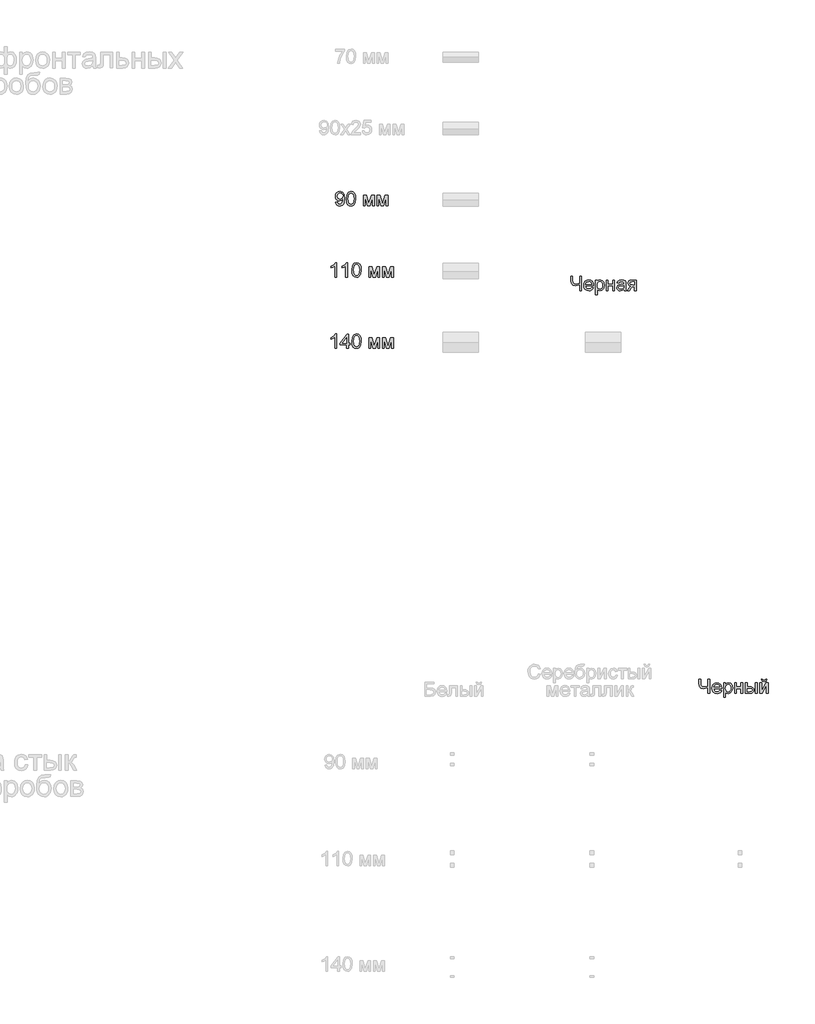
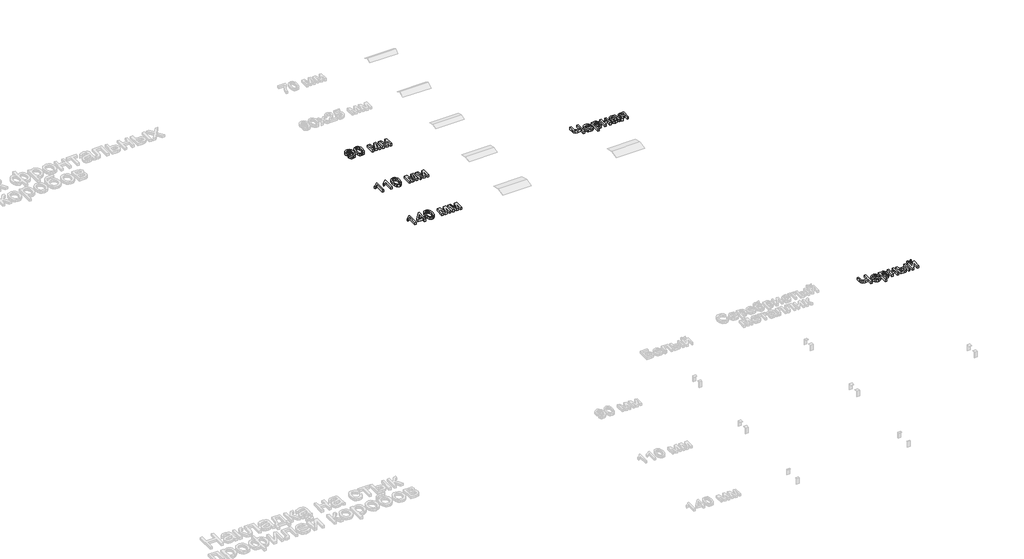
# One storey, part 32 of 48: 5 proxies.
"""IFC4 building model written with IfcOpenShell, lengths in millimetres."""

import ifcopenshell
import ifcopenshell.guid

model = None  # the IFC model being written
_history = None  # IfcOwnerHistory: only IFC2X3 demands one
_inside = {}  # id of a spatial element -> (the spatial element, [elements in it])
_under = {}  # id of a project, library or spatial element -> (it, [spatial elements below it])
_declared = {}  # id of a project -> (the project, [libraries it declares])
_typed = {}  # id of a type object -> (the type object, [elements of that type])
_made_of = {}  # id of a material, layer set ... -> (it, [elements and type objects made of it])


def new_model(schema):
    """Start an empty IFC model of exactly this schema.

    Asked for "IFC4X3", IfcOpenShell would pick the latest addendum, in which some entities
    have other attributes; the version numbers below select the first issue.
    IFC2X3 requires an IfcOwnerHistory on every rooted entity: one is made here for all.
    """
    global model, _history
    if schema == "IFC4X3":
        model = ifcopenshell.file(schema_version=(4, 3, 0, 0))
    else:
        model = ifcopenshell.file(schema=schema)
    _inside.clear()
    _under.clear()
    _declared.clear()
    _typed.clear()
    _made_of.clear()
    _history = None
    if model.schema == "IFC2X3":
        org = make("IfcOrganization", Name="unknown")
        user = make(
            "IfcPersonAndOrganization",
            ThePerson=make("IfcPerson", FamilyName="unknown"),
            TheOrganization=org,
        )
        app = make(
            "IfcApplication",
            ApplicationDeveloper=org,
            Version="unknown",
            ApplicationFullName="unknown",
            ApplicationIdentifier="unknown",
        )
        _history = make(
            "IfcOwnerHistory",
            OwningUser=user,
            OwningApplication=app,
            ChangeAction="ADDED",
            CreationDate=0,
        )
    return model


def make(cls, **values):
    """One entity of the class cls with the attributes given. An attribute that is None is left unset."""
    return model.create_entity(
        cls, **{name: value for name, value in values.items() if value is not None}
    )


def rooted(cls, **values):
    """An entity with a GlobalId (a new one), such as an element, a storey or a relation."""
    return make(cls, GlobalId=ifcopenshell.guid.new(), OwnerHistory=_history, **values)


def si_unit(unit_type, name, prefix=None):
    """IfcSIUnit, for example si_unit("LENGTHUNIT", "METRE", prefix="MILLI")."""
    return make("IfcSIUnit", UnitType=unit_type, Prefix=prefix, Name=name)


def assignment(units):
    """IfcUnitAssignment: the units of a project."""
    return None if units is None else make("IfcUnitAssignment", Units=units)


def point(xyz):
    """IfcCartesianPoint."""
    return None if xyz is None else make("IfcCartesianPoint", Coordinates=xyz)


def direction(xyz):
    """IfcDirection."""
    return None if xyz is None else make("IfcDirection", DirectionRatios=xyz)


def frame(location, z_axis=None, x_axis=None):
    """IfcAxis2Placement3D, a coordinate frame: its origin and axes. An axis left out is left unset."""
    return make(
        "IfcAxis2Placement3D",
        Location=point(location),
        Axis=direction(z_axis),
        RefDirection=direction(x_axis),
    )


def origin():
    """The frame at (0, 0, 0) with its axes left unset."""
    return frame((0.0, 0.0, 0.0))


def origin_with_axes():
    """The frame at (0, 0, 0) with the z axis (0, 0, 1) and the x axis (1, 0, 0) written out."""
    return frame((0.0, 0.0, 0.0), z_axis=(0.0, 0.0, 1.0), x_axis=(1.0, 0.0, 0.0))


def place(relative_to, where):
    """IfcLocalPlacement: puts the frame where relative to a parent placement (None: the world)."""
    return make(
        "IfcLocalPlacement", PlacementRelTo=relative_to, RelativePlacement=where
    )


def context(
    kind, dimensions, precision=None, world=None, true_north=None, identifier=None
):
    """IfcGeometricRepresentationContext, for example the 3D "Model" context."""
    return make(
        "IfcGeometricRepresentationContext",
        ContextIdentifier=identifier,
        ContextType=kind,
        CoordinateSpaceDimension=dimensions,
        Precision=precision,
        WorldCoordinateSystem=world,
        TrueNorth=true_north,
    )


def project(units=None, contexts=None):
    """IfcProject with its units and contexts."""
    return rooted(
        "IfcProject",
        Name="project",
        RepresentationContexts=contexts,
        UnitsInContext=assignment(units),
    )


def spatial(cls, under=None, at=None, **own):
    """A site, building, storey or space (cls), placed at a placement, below another one or the project."""
    s = rooted(cls, ObjectPlacement=at, **own)
    if under is not None:
        _under.setdefault(under.id(), (under, []))[1].append(s)
    return s


def polyline(points):
    """IfcPolyline through the points."""
    return make("IfcPolyline", Points=[point(p) for p in points])


def outline(outer, holes=None, kind="AREA"):
    """IfcArbitraryClosedProfileDef: a profile drawn as a closed curve; with holes, ...WithVoids."""
    if holes is None:
        return make("IfcArbitraryClosedProfileDef", ProfileType=kind, OuterCurve=outer)
    return make(
        "IfcArbitraryProfileDefWithVoids",
        ProfileType=kind,
        OuterCurve=outer,
        InnerCurves=holes,
    )


def extrude(swept, where, along, depth):
    """IfcExtrudedAreaSolid: the profile swept, set in the frame where, extruded along a direction by depth."""
    return make(
        "IfcExtrudedAreaSolid",
        SweptArea=swept,
        Position=where,
        ExtrudedDirection=direction(along),
        Depth=depth,
    )


def shape(context_of_items, identifier, shape_type, items):
    """IfcShapeRepresentation: the items that make up one representation, for example the "Body"."""
    return make(
        "IfcShapeRepresentation",
        ContextOfItems=context_of_items,
        RepresentationIdentifier=identifier,
        RepresentationType=shape_type,
        Items=items,
    )


def made_of(thing, what):
    """Note that an element or type object is made of a material, layer set ...; save() writes the relation."""
    if what is not None:
        _made_of.setdefault(what.id(), (what, []))[1].append(thing)
    return thing


def element(
    cls,
    number,
    at=None,
    inside=None,
    cuts=None,
    type_object=None,
    material=None,
    context=None,
    identifier="Body",
    shape_type=None,
    held_by="IfcProductDefinitionShape",
    body=None,
    shapes=None,
    **own,
):
    """One element of the class cls, such as IfcWall. Its Tag is "e" and its number.

    at: its placement. inside: the storey or other place that contains it. cuts: it is an
    opening in that element (IfcRelVoidsElement). A single representation is given by context,
    identifier, shape_type and body (its items); several are given by shapes. held_by: the class
    of the entity that holds the representations. save() writes the other relations.
    """
    e = rooted(cls, Tag="e%d" % number, ObjectPlacement=at, **own)
    if body is not None:
        shapes = [shape(context, identifier, shape_type, body)]
    if shapes is not None:
        e.Representation = make(held_by, Representations=shapes)
    if inside is not None:
        _inside.setdefault(inside.id(), (inside, []))[1].append(e)
    if cuts is not None:
        rooted(
            "IfcRelVoidsElement", RelatingBuildingElement=cuts, RelatedOpeningElement=e
        )
    if type_object is not None:
        _typed.setdefault(type_object.id(), (type_object, []))[1].append(e)
    return made_of(e, material)


def aggregate(whole, parts):
    """IfcRelAggregates: a whole, such as a stair, and the parts it consists of."""
    return rooted("IfcRelAggregates", RelatingObject=whole, RelatedObjects=parts)


def save(model, path):
    """Write the relations noted so far, then the file.

    IfcRelAggregates (storeys below a building ...), IfcRelContainedInSpatialStructure (elements
    in a storey), IfcRelDefinesByType, IfcRelAssociatesMaterial and IfcRelDeclares: one each for
    every whole, place, type object, material and project.
    """
    for whole, parts in _under.values():
        aggregate(whole, parts)
    for where, things in _inside.values():
        rooted(
            "IfcRelContainedInSpatialStructure",
            RelatedElements=things,
            RelatingStructure=where,
        )
    for kind, things in _typed.values():
        rooted("IfcRelDefinesByType", RelatedObjects=things, RelatingType=kind)
    for what, things in _made_of.values():
        rooted("IfcRelAssociatesMaterial", RelatedObjects=things, RelatingMaterial=what)
    for by, libraries in _declared.values():
        rooted("IfcRelDeclares", RelatingContext=by, RelatedDefinitions=libraries)
    model.write(path)


model = new_model("IFC4")

# Units and contexts
model_context = context("Model", 3, world=origin())
ifc_project = project(units=[si_unit("LENGTHUNIT", "METRE", prefix="MILLI")], contexts=[model_context])

# Site, building, storey
site = spatial("IfcSite", under=ifc_project)
building = spatial("IfcBuilding", under=site)
storey = spatial("IfcBuildingStorey", under=building, Name="Этаж 01", Elevation=0.0)

# Proxies
placement = place(None, origin())
element("IfcBuildingElementProxy", 1, Name="100 мм Arial", ObjectType="100 мм Arial", at=placement, inside=storey, context=model_context, shape_type="SweptSolid", body=[
    extrude(outline(polyline([(12283.6293388, 3502.0766546), (12296.1863775, 3503.6462844), (12301.8272348, 3491.6655941), (12312.5203381, 3487.949986), (12322.6861439, 3490.3412189), (12329.5778, 3496.7301029), (12333.6858156, 3507.6439354), (12335.5007001, 3522.2120624), (12335.4271237, 3524.6646091), (12325.3839452, 3515.1487281), (12311.6128959, 3511.4944337), (12300.1625688, 3513.7262511), (12290.6313594, 3520.4217034), (12284.2026216, 3530.7653188), (12282.0597089, 3543.9416256), (12284.3068548, 3557.5532594), (12291.0482923, 3568.2218373), (12301.1742443, 3575.1196247), (12313.5749332, 3577.4188872), (12331.4662609, 3572.1704374), (12343.778045, 3557.2099029), (12347.9841625, 3529.1037185), (12343.7903077, 3498.6063011), (12338.5755804, 3488.6152392), (12331.3191081, 3481.32811), (12322.3335904, 3476.8767379), (12311.9317269, 3475.3929472), (12301.195704, 3477.1434524), (12292.6301849, 3482.3949678), (12286.6398398, 3490.8163998), (12283.6293388, 3502.0766546)]), holes=[polyline([(12335.4271237, 3544.2359312), (12334.0720917, 3552.746268), (12330.0069956, 3559.2945676), (12323.6978194, 3563.4700282), (12315.6105469, 3564.8618484), (12307.2228374, 3563.3627293), (12300.5028596, 3558.8653719), (12296.0882757, 3551.9829129), (12294.6167477, 3543.328489), (12296.0085679, 3535.5692446), (12300.1840286, 3529.4102868), (12306.7384594, 3525.391176), (12315.2671904, 3524.0514724), (12329.7494782, 3529.4102868), (12334.0077123, 3535.7961051), (12335.4271237, 3544.2359312)])]), origin_with_axes(), (0.0, 0.0, 1.0), 20.0),
    extrude(outline(polyline([(12358.9715714, 3526.3813917), (12362.6626541, 3555.2846538), (12373.6255375, 3571.9497082), (12391.9337982, 3577.4188872), (12406.600027, 3574.1815256), (12416.7290446, 3564.8495857), (12422.6151566, 3549.9871531), (12424.8960249, 3526.3813917), (12421.2417304, 3497.600757), (12410.3156352, 3480.8989144), (12402.0842755, 3476.769439), (12391.9337982, 3475.3929472), (12378.8862501, 3477.7841802), (12368.9779617, 3484.9578791), (12361.473169, 3501.9478959), (12358.9715714, 3526.3813917)]), holes=[polyline([(12371.5286102, 3526.4059172), (12373.0001381, 3506.6537197), (12377.4147221, 3495.2217867), (12383.9875471, 3489.7679362), (12391.9337982, 3487.949986), (12399.8800493, 3489.7740675), (12406.4528742, 3495.2463122), (12410.8674582, 3506.6843766), (12412.3389862, 3526.4059172), (12410.9165091, 3545.7135906), (12406.649078, 3557.2344284), (12400.0885157, 3562.9549934), (12391.7866454, 3564.8618484), (12383.9262334, 3563.181854), (12377.6109258, 3558.1418706), (12373.0491891, 3545.9036629), (12371.5286102, 3526.4059172)])]), origin_with_axes(), (0.0, 0.0, 1.0), 20.0),
    extrude(outline(polyline([(12478.2634397, 3550.7351798), (12499.8703755, 3550.7351798), (12516.5231672, 3491.6778568), (12534.4758086, 3550.7351798), (12555.1753022, 3550.7351798), (12555.1753022, 3476.962577), (12542.6182634, 3476.962577), (12542.6182634, 3536.3632565), (12524.5675202, 3476.962577), (12508.0864068, 3476.962577), (12490.8204785, 3539.2082106), (12490.8204785, 3476.962577), (12478.2634397, 3476.962577), (12478.2634397, 3550.7351798)])), origin_with_axes(), (0.0, 0.0, 1.0), 20.0),
    extrude(outline(polyline([(12574.0108603, 3550.7351798), (12595.6177962, 3550.7351798), (12612.2705878, 3491.6778568), (12630.2232292, 3550.7351798), (12650.9227228, 3550.7351798), (12650.9227228, 3476.962577), (12638.365684, 3476.962577), (12638.365684, 3536.3632565), (12620.3149408, 3476.962577), (12603.8338274, 3476.962577), (12586.5678991, 3539.2082106), (12586.5678991, 3476.962577), (12574.0108603, 3476.962577), (12574.0108603, 3550.7351798)])), origin_with_axes(), (0.0, 0.0, 1.0), 20.0),
])
element("IfcBuildingElementProxy", 2, Name="100 мм Arial", ObjectType="100 мм Arial", at=placement, inside=storey, context=model_context, shape_type="SweptSolid", body=[
    extrude(outline(polyline([(12290.6926731, 2976.962577), (12278.1356343, 2976.962577), (12278.1356343, 3055.2478656), (12266.2407831, 3046.774317), (12253.0215568, 3040.4344839), (12253.0215568, 3052.3048097), (12271.4279193, 3064.052508), (12282.5992692, 3077.4188872), (12290.6926731, 3077.4188872), (12290.6926731, 2976.962577)])), origin_with_axes(), (0.0, 0.0, 1.0), 20.0),
    extrude(outline(polyline([(12367.6045355, 2976.962577), (12355.0474968, 2976.962577), (12355.0474968, 3055.2478656), (12343.1526456, 3046.774317), (12329.9334192, 3040.4344839), (12329.9334192, 3052.3048097), (12348.3397817, 3064.052508), (12359.5111316, 3077.4188872), (12367.6045355, 3077.4188872), (12367.6045355, 2976.962577)])), origin_with_axes(), (0.0, 0.0, 1.0), 20.0),
    extrude(outline(polyline([(12397.4275026, 3026.3813917), (12401.1185853, 3055.2846538), (12412.0814688, 3071.9497082), (12430.3897294, 3077.4188872), (12445.0559583, 3074.1815256), (12455.1849759, 3064.8495857), (12461.0710878, 3049.9871531), (12463.3519562, 3026.3813917), (12459.6976617, 2997.600757), (12448.7715664, 2980.8989144), (12440.5402068, 2976.769439), (12430.3897294, 2975.3929472), (12417.3421813, 2977.7841802), (12407.4338929, 2984.9578791), (12399.9291002, 3001.9478959), (12397.4275026, 3026.3813917)]), holes=[polyline([(12409.9845414, 3026.4059172), (12411.4560694, 3006.6537197), (12415.8706533, 2995.2217867), (12422.4434783, 2989.7679362), (12430.3897294, 2987.949986), (12438.3359805, 2989.7740675), (12444.9088055, 2995.2463122), (12449.3233894, 3006.6843766), (12450.7949174, 3026.4059172), (12449.3724403, 3045.7135906), (12445.1050092, 3057.2344284), (12438.5444469, 3062.9549934), (12430.2425766, 3064.8618484), (12422.3821646, 3063.181854), (12416.066857, 3058.1418706), (12411.5051203, 3045.9036629), (12409.9845414, 3026.4059172)])]), origin_with_axes(), (0.0, 0.0, 1.0), 20.0),
    extrude(outline(polyline([(12516.7193709, 3050.7351798), (12538.3263068, 3050.7351798), (12554.9790984, 2991.6778568), (12572.9317398, 3050.7351798), (12593.6312334, 3050.7351798), (12593.6312334, 2976.962577), (12581.0741946, 2976.962577), (12581.0741946, 3036.3632565), (12563.0234514, 2976.962577), (12546.542338, 2976.962577), (12529.2764097, 3039.2082106), (12529.2764097, 2976.962577), (12516.7193709, 2976.962577), (12516.7193709, 3050.7351798)])), origin_with_axes(), (0.0, 0.0, 1.0), 20.0),
    extrude(outline(polyline([(12612.4667915, 3050.7351798), (12634.0737274, 3050.7351798), (12650.726519, 2991.6778568), (12668.6791604, 3050.7351798), (12689.378654, 3050.7351798), (12689.378654, 2976.962577), (12676.8216152, 2976.962577), (12676.8216152, 3036.3632565), (12658.770872, 2976.962577), (12642.2897586, 2976.962577), (12625.0238303, 3039.2082106), (12625.0238303, 2976.962577), (12612.4667915, 2976.962577), (12612.4667915, 3050.7351798)])), origin_with_axes(), (0.0, 0.0, 1.0), 20.0),
])
element("IfcBuildingElementProxy", 3, Name="100 мм Arial", ObjectType="100 мм Arial", at=placement, inside=storey, context=model_context, shape_type="SweptSolid", body=[
    extrude(outline(polyline([(12290.6926731, 2476.962577), (12278.1356343, 2476.962577), (12278.1356343, 2555.2478656), (12266.2407831, 2546.774317), (12253.0215568, 2540.4344839), (12253.0215568, 2552.3048097), (12271.4279193, 2564.052508), (12282.5992692, 2577.4188872), (12290.6926731, 2577.4188872), (12290.6926731, 2476.962577)])), origin_with_axes(), (0.0, 0.0, 1.0), 20.0),
    extrude(outline(polyline([(12361.3260162, 2476.962577), (12361.3260162, 2500.5070247), (12315.8067506, 2500.5070247), (12315.8067506, 2513.0640635), (12364.4652759, 2575.8492573), (12373.8830549, 2575.8492573), (12373.8830549, 2513.0640635), (12386.4400937, 2513.0640635), (12386.4400937, 2500.5070247), (12373.8830549, 2500.5070247), (12373.8830549, 2476.962577), (12361.3260162, 2476.962577)]), holes=[polyline([(12361.3260162, 2513.0640635), (12361.3260162, 2551.8633513), (12331.2577944, 2513.0640635), (12361.3260162, 2513.0640635)])]), origin_with_axes(), (0.0, 0.0, 1.0), 20.0),
    extrude(outline(polyline([(12397.4275026, 2526.3813917), (12401.1185853, 2555.2846538), (12412.0814688, 2571.9497082), (12430.3897294, 2577.4188872), (12445.0559583, 2574.1815256), (12455.1849759, 2564.8495857), (12461.0710878, 2549.9871531), (12463.3519562, 2526.3813917), (12459.6976617, 2497.600757), (12448.7715664, 2480.8989144), (12440.5402068, 2476.769439), (12430.3897294, 2475.3929472), (12417.3421813, 2477.7841802), (12407.4338929, 2484.9578791), (12399.9291002, 2501.9478959), (12397.4275026, 2526.3813917)]), holes=[polyline([(12409.9845414, 2526.4059172), (12411.4560694, 2506.6537197), (12415.8706533, 2495.2217867), (12422.4434783, 2489.7679362), (12430.3897294, 2487.949986), (12438.3359805, 2489.7740675), (12444.9088055, 2495.2463122), (12449.3233894, 2506.6843766), (12450.7949174, 2526.4059172), (12449.3724403, 2545.7135906), (12445.1050092, 2557.2344284), (12438.5444469, 2562.9549934), (12430.2425766, 2564.8618484), (12422.3821646, 2563.181854), (12416.066857, 2558.1418706), (12411.5051203, 2545.9036629), (12409.9845414, 2526.4059172)])]), origin_with_axes(), (0.0, 0.0, 1.0), 20.0),
    extrude(outline(polyline([(12516.7193709, 2550.7351798), (12538.3263068, 2550.7351798), (12554.9790984, 2491.6778568), (12572.9317398, 2550.7351798), (12593.6312334, 2550.7351798), (12593.6312334, 2476.962577), (12581.0741946, 2476.962577), (12581.0741946, 2536.3632565), (12563.0234514, 2476.962577), (12546.542338, 2476.962577), (12529.2764097, 2539.2082106), (12529.2764097, 2476.962577), (12516.7193709, 2476.962577), (12516.7193709, 2550.7351798)])), origin_with_axes(), (0.0, 0.0, 1.0), 20.0),
    extrude(outline(polyline([(12612.4667915, 2550.7351798), (12634.0737274, 2550.7351798), (12650.726519, 2491.6778568), (12668.6791604, 2550.7351798), (12689.378654, 2550.7351798), (12689.378654, 2476.962577), (12676.8216152, 2476.962577), (12676.8216152, 2536.3632565), (12658.770872, 2476.962577), (12642.2897586, 2476.962577), (12625.0238303, 2539.2082106), (12625.0238303, 2476.962577), (12612.4667915, 2476.962577), (12612.4667915, 2550.7351798)])), origin_with_axes(), (0.0, 0.0, 1.0), 20.0),
])
element("IfcBuildingElementProxy", 4, Name="100 мм Arial", ObjectType="100 мм Arial", at=placement, inside=storey, context=model_context, shape_type="SweptSolid", body=[
    extrude(outline(polyline([(14010.8881443, 2881.8744749), (13998.3311055, 2881.8744749), (13998.3311055, 2922.0962397), (13967.2328142, 2914.8367016), (13948.8755026, 2919.8031086), (13938.2314502, 2932.4091983), (13935.5459117, 2952.4097161), (13935.5459117, 2982.330785), (13948.1029504, 2982.330785), (13948.1029504, 2954.1019732), (13949.6112666, 2940.5240619), (13954.1362152, 2932.5563511), (13968.6307658, 2927.3937404), (13998.3311055, 2933.6232088), (13998.3311055, 2982.330785), (14010.8881443, 2982.330785), (14010.8881443, 2881.8744749)])), origin_with_axes(), (0.0, 0.0, 1.0), 20.0),
    extrude(outline(polyline([(14082.9439644, 2903.8492927), (14095.2557485, 2902.2796629), (14090.8197048, 2893.0029052), (14083.7410421, 2886.0683296), (14074.1791759, 2881.7457162), (14062.2935217, 2880.304845), (14047.5598478, 2882.7911142), (14036.222951, 2890.2499216), (14028.9940698, 2902.1968894), (14026.5844428, 2918.1476396), (14029.0185953, 2934.6348843), (14036.3210529, 2946.9650625), (14047.5046655, 2954.6537962), (14061.5822832, 2957.2167075), (14075.2215082, 2954.6599276), (14086.1200123, 2946.989588), (14093.2661201, 2934.6839353), (14095.648156, 2918.221216), (14095.5745796, 2914.8367016), (14039.1414815, 2914.8367016), (14041.315051, 2905.4373166), (14046.3642314, 2898.5272665), (14053.6513605, 2894.2782295), (14062.5387764, 2892.8618838), (14074.8505605, 2895.4861087), (14082.9439644, 2903.8492927)]), holes=[polyline([(14039.1414815, 2927.3937404), (14083.0911172, 2927.3937404), (14078.0633966, 2938.7735568), (14070.7425449, 2943.1881407), (14061.5332323, 2944.6596687), (14046.0699258, 2939.9630419), (14041.2046864, 2934.4724031), (14039.1414815, 2927.3937404)])]), origin_with_axes(), (0.0, 0.0, 1.0), 20.0),
    extrude(outline(polyline([(14108.2051947, 2853.6211376), (14108.2051947, 2955.6470776), (14120.7622335, 2955.6470776), (14120.7622335, 2943.3352935), (14129.4442486, 2953.746354), (14141.1674215, 2957.2167075), (14157.0844492, 2952.3606651), (14167.4832469, 2938.6754549), (14170.9903886, 2919.324862), (14167.0295258, 2898.9809876), (14155.5270821, 2885.1240991), (14139.6468426, 2880.304845), (14128.7207473, 2883.5299438), (14120.7622335, 2891.6846614), (14120.7622335, 2853.6211376), (14108.2051947, 2853.6211376)]), holes=[polyline([(14120.7622335, 2918.172165), (14122.1203312, 2906.914976), (14126.1946243, 2899.0423013), (14132.2064292, 2894.4069882), (14139.3770625, 2892.8618838), (14146.6641917, 2894.4621705), (14152.8292808, 2899.2630305), (14157.0323326, 2907.4238794), (14158.4333498, 2919.1041328), (14157.0660551, 2930.3000082), (14152.9641708, 2938.2830475), (14146.9615629, 2943.0655134), (14139.8920973, 2944.6596687), (14132.7950404, 2942.9643458), (14126.5625063, 2937.8783773), (14122.2123017, 2929.5611785), (14120.7622335, 2918.172165)])]), origin_with_axes(), (0.0, 0.0, 1.0), 20.0),
    extrude(outline(polyline([(14185.1170572, 2955.6470776), (14197.674096, 2955.6470776), (14197.674096, 2927.3937404), (14230.6363227, 2927.3937404), (14230.6363227, 2955.6470776), (14243.1933615, 2955.6470776), (14243.1933615, 2881.8744749), (14230.6363227, 2881.8744749), (14230.6363227, 2914.8367016), (14197.674096, 2914.8367016), (14197.674096, 2881.8744749), (14185.1170572, 2881.8744749), (14185.1170572, 2955.6470776)])), origin_with_axes(), (0.0, 0.0, 1.0), 20.0),
    extrude(outline(polyline([(14309.117815, 2891.2922539), (14296.940921, 2882.7819171), (14283.4887027, 2880.304845), (14272.9948688, 2881.7947671), (14265.2540185, 2886.2645333), (14260.4807496, 2893.0519561), (14258.88966, 2901.4948479), (14261.2931557, 2911.4276618), (14267.6084633, 2918.6381489), (14276.4008429, 2922.7584273), (14287.2656245, 2924.6468882), (14309.0442386, 2928.9633702), (14309.117815, 2931.7592734), (14305.6597243, 2941.0298997), (14291.7783103, 2944.6596687), (14279.0741188, 2942.2439103), (14273.0163286, 2933.6722598), (14260.4592898, 2935.2418896), (14265.8916806, 2947.5046228), (14276.8300386, 2954.6905844), (14293.3969911, 2957.2167075), (14308.615043, 2954.98489), (14317.2112189, 2949.380821), (14321.0617172, 2940.8582214), (14321.6748538, 2929.8708125), (14321.6748538, 2914.2480904), (14322.3125159, 2892.4326881), (14324.8141135, 2881.8744749), (14312.2570747, 2881.8744749), (14309.117815, 2891.2922539)]), holes=[polyline([(14309.117815, 2916.4063315), (14288.8597798, 2912.5558333), (14278.0563119, 2910.5202195), (14273.1634814, 2907.2092816), (14271.4466987, 2902.3777647), (14275.1868324, 2895.5842105), (14286.1619785, 2892.8618838), (14298.8661701, 2895.8662534), (14307.0576759, 2903.1380542), (14309.0442386, 2912.8501389), (14309.117815, 2916.4063315)])]), origin_with_axes(), (0.0, 0.0, 1.0), 20.0),
    extrude(outline(polyline([(14395.4474566, 2955.6470776), (14395.4474566, 2881.8744749), (14382.8904178, 2881.8744749), (14382.8904178, 2910.1278121), (14376.0478127, 2910.1278121), (14366.7281355, 2908.5336568), (14357.972544, 2897.816028), (14347.9661537, 2881.8744749), (14333.4470777, 2881.8744749), (14346.0531674, 2902.0344082), (14356.7462707, 2912.4822569), (14348.1623575, 2915.1126131), (14342.1290927, 2920.1096769), (14337.3711523, 2934.3344474), (14338.9959644, 2942.9306233), (14343.8704009, 2949.7364402), (14351.8227833, 2954.1694183), (14362.6814335, 2955.6470776), (14395.4474566, 2955.6470776)]), holes=[polyline([(14382.8904178, 2943.0900389), (14366.335728, 2943.0900389), (14352.9325607, 2940.1837711), (14349.928191, 2933.3779542), (14354.3550377, 2925.2722876), (14370.0390734, 2922.6848509), (14382.8904178, 2922.6848509), (14382.8904178, 2943.0900389)])]), origin_with_axes(), (0.0, 0.0, 1.0), 20.0),
])
element("IfcBuildingElementProxy", 5, Name="100 мм Arial", ObjectType="100 мм Arial", at=placement, inside=storey, context=model_context, shape_type="SweptSolid", body=[
    extrude(outline(polyline([(14911.6331218, 53.870622), (14899.076083, 53.870622), (14899.076083, 94.0923868), (14867.9777917, 86.8328488), (14849.6204802, 91.7992557), (14838.9764278, 104.4053454), (14836.2908892, 124.4058632), (14836.2908892, 154.3269322), (14848.847928, 154.3269322), (14848.847928, 126.0981204), (14850.3562442, 112.5202091), (14854.8811927, 104.5524982), (14869.3757433, 99.3898875), (14899.076083, 105.619356), (14899.076083, 154.3269322), (14911.6331218, 154.3269322), (14911.6331218, 53.870622)])), origin_with_axes(), (0.0, 0.0, 1.0), 20.0),
    extrude(outline(polyline([(14983.6889419, 75.8454399), (14996.000726, 74.27581), (14991.5646823, 64.9990524), (14984.4860196, 58.0644768), (14974.9241534, 53.7418633), (14963.0384993, 52.3009922), (14948.3048254, 54.7872613), (14936.9679286, 62.2460688), (14929.7390473, 74.1930366), (14927.3294203, 90.1437867), (14929.7635728, 106.6310315), (14937.0660304, 118.9612097), (14948.2496431, 126.6499434), (14962.3272608, 129.2128546), (14975.9664857, 126.6560748), (14986.8649898, 118.9857352), (14994.0110976, 106.6800824), (14996.3931335, 90.2173631), (14996.3195571, 86.8328488), (14939.886459, 86.8328488), (14942.0600285, 77.4334638), (14947.1092089, 70.5234137), (14954.3963381, 66.2743766), (14963.2837539, 64.8580309), (14975.595538, 67.4822558), (14983.6889419, 75.8454399)]), holes=[polyline([(14939.886459, 99.3898875), (14983.8360947, 99.3898875), (14978.8083741, 110.7697039), (14971.4875224, 115.1842879), (14962.2782098, 116.6558159), (14946.8149033, 111.9591891), (14941.9496639, 106.4685503), (14939.886459, 99.3898875)])]), origin_with_axes(), (0.0, 0.0, 1.0), 20.0),
    extrude(outline(polyline([(15008.9501723, 25.6172848), (15008.9501723, 127.6432248), (15021.507211, 127.6432248), (15021.507211, 115.3314407), (15030.1892261, 125.7425011), (15041.912399, 129.2128546), (15057.8294267, 124.3568123), (15068.2282244, 110.6716021), (15071.7353661, 91.3210091), (15067.7745033, 70.9771348), (15056.2720596, 57.1202463), (15040.3918201, 52.3009922), (15029.4657249, 55.526091), (15021.507211, 63.6808085), (15021.507211, 25.6172848), (15008.9501723, 25.6172848)]), holes=[polyline([(15021.507211, 90.1683122), (15022.8653087, 78.9111232), (15026.9396018, 71.0384485), (15032.9514068, 66.4031353), (15040.12204, 64.8580309), (15047.4091692, 66.4583176), (15053.5742583, 71.2591777), (15057.7773101, 79.4200266), (15059.1783274, 91.1002799), (15057.8110326, 102.2961553), (15053.7091484, 110.2791946), (15047.7065405, 115.0616605), (15040.6370748, 116.6558159), (15033.540018, 114.960493), (15027.3074838, 109.8745244), (15022.9572792, 101.5573256), (15021.507211, 90.1683122)])]), origin_with_axes(), (0.0, 0.0, 1.0), 20.0),
    extrude(outline(polyline([(15085.8620347, 127.6432248), (15098.4190735, 127.6432248), (15098.4190735, 99.3898875), (15131.3813003, 99.3898875), (15131.3813003, 127.6432248), (15143.938339, 127.6432248), (15143.938339, 53.870622), (15131.3813003, 53.870622), (15131.3813003, 86.8328488), (15098.4190735, 86.8328488), (15098.4190735, 53.870622), (15085.8620347, 53.870622), (15085.8620347, 127.6432248)])), origin_with_axes(), (0.0, 0.0, 1.0), 20.0),
    extrude(outline(polyline([(15231.8376104, 127.6432248), (15244.3946492, 127.6432248), (15244.3946492, 53.870622), (15231.8376104, 53.870622), (15231.8376104, 127.6432248)])), origin_with_axes(), (0.0, 0.0, 1.0), 20.0),
    extrude(outline(polyline([(15162.7738972, 127.6432248), (15175.330936, 127.6432248), (15175.330936, 100.9595174), (15190.8555562, 100.9595174), (15204.2740519, 99.3868219), (15214.2160629, 94.6687353), (15220.3688892, 87.1854024), (15222.4198313, 77.3169678), (15220.699983, 68.3314501), (15215.540438, 60.7500153), (15206.6039712, 55.5904703), (15193.5533575, 53.870622), (15162.7738972, 53.870622), (15162.7738972, 127.6432248)]), holes=[polyline([(15175.330936, 66.4276608), (15188.2313313, 66.4276608), (15204.8841229, 69.0641484), (15209.8627926, 77.2924424), (15206.1717099, 85.0179643), (15189.8745375, 88.4024786), (15175.330936, 88.4024786), (15175.330936, 66.4276608)])]), origin_with_axes(), (0.0, 0.0, 1.0), 20.0),
    extrude(outline(polyline([(15263.2302073, 127.6432248), (15275.7872461, 127.6432248), (15275.7872461, 71.381805), (15306.6402828, 127.6432248), (15322.8761415, 127.6432248), (15322.8761415, 53.870622), (15310.3191027, 53.870622), (15310.3191027, 109.7886853), (15279.6622698, 53.870622), (15263.2302073, 53.870622), (15263.2302073, 127.6432248)])), origin_with_axes(), (0.0, 0.0, 1.0), 20.0),
    extrude(outline(polyline([(15304.0405833, 154.3269322), (15313.4583624, 154.3269322), (15307.363784, 140.3596791), (15293.8379893, 135.491374), (15279.1962859, 140.3228909), (15272.6479864, 154.3269322), (15282.0657655, 154.3269322), (15285.5974326, 147.2513351), (15292.7098179, 144.9091531), (15300.5089162, 147.1777587), (15304.0405833, 154.3269322)])), origin_with_axes(), (0.0, 0.0, 1.0), 20.0),
])

save(model, "model.ifc")
